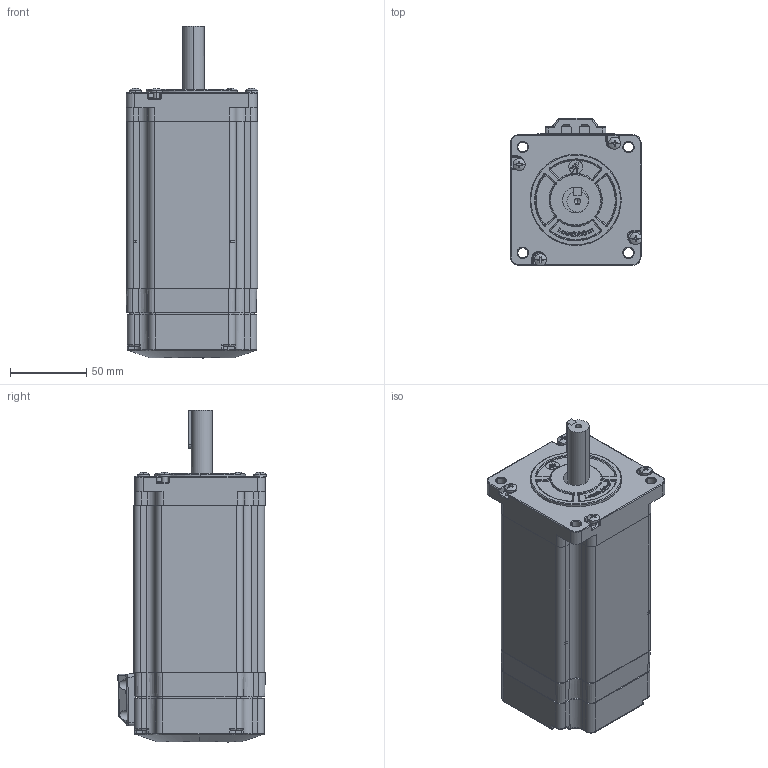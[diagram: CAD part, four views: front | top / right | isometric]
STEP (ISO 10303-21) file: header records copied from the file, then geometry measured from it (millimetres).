
FILE_DESCRIPTION (( 'STEP AP214' ), '1' );
FILE_NAME ('86CME85-BZ.STEP', '2018-07-02T02:03:58', ( 'Microsoft' ), ( 'China' ), 'SwSTEP 2.0', 'SolidWorks 2011', '' );
FILE_SCHEMA (( 'AUTOMOTIVE_DESIGN' ));
Products named in the file (11): 前端盖开模2015-04-02带（LOGO无字版放槽里）-7_Default_Default; 蛌粣86萇儂-7_Default_Default; 瑩种86萇儂-7_Default_Default; 编码器罩多压面(常）非防水（加高1.5mm）修模带LOGO1（开口版）（加柱子）-7_Default_Default; 后端盖（新PCB板常规出线）-7_Default_Default; 电机压线块（开环闭口）常（后面出电源线）新设计参考创谊-7_Default_Default; cross recessed pan head screws gb_GB_CROSS_SCREWS_TYPE1 M4X6-6  H type-N-7_Default_Default; 编码器罩密封垫（常）修模（加小孔定位）-7_Default_Default; 隅赽86HBM80C-1000-7_Default_Default; cross recessed pan head screws gb_GB_CROSS_SCREWS_TYPE1 M3X6-6  H type-N-7_Default_Default; 86CME85-BZ
Assembly tree (16 placements, depth 2):
  86CME85-BZ
    后端盖（新PCB板常规出线）-7_Default_Default
    编码器罩多压面(常）非防水（加高1.5mm）修模带LOGO1（开口版）（加柱子）-7_Default_Default
    瑩种86萇儂-7_Default_Default
    蛌粣86萇儂-7_Default_Default
    前端盖开模2015-04-02带（LOGO无字版放槽里）-7_Default_Default
    编码器罩密封垫（常）修模（加小孔定位）-7_Default_Default
    cross recessed pan head screws gb_GB_CROSS_SCREWS_TYPE1 M3X6-6  H type-N-7_Default_Default  x4
    cross recessed pan head screws gb_GB_CROSS_SCREWS_TYPE1 M4X6-6  H type-N-7_Default_Default  x4
    隅赽86HBM80C-1000-7_Default_Default
    电机压线块（开环闭口）常（后面出电源线）新设计参考创谊-7_Default_Default
Bounding box: 86.74 x 97.49 x 218.37 mm (x, y, z)
Volume: 858599.9 mm3; surface area: 168850 mm2
Topology: 26 solids, 26 shells, 1605 faces, 4244 edges, 2724 vertices
Faces by surface type: plane 660, cylinder 597, bspline 308, cone 40
Entity records: 55450 total; most frequent: CARTESIAN_POINT 20173, ORIENTED_EDGE 7642, DIRECTION 6707, EDGE_CURVE 3821, VERTEX_POINT 2466, AXIS2_PLACEMENT_3D 2331, VECTOR 2045, LINE 2045
